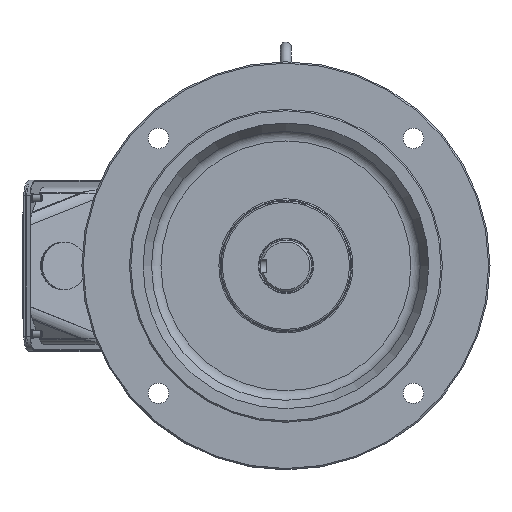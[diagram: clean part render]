
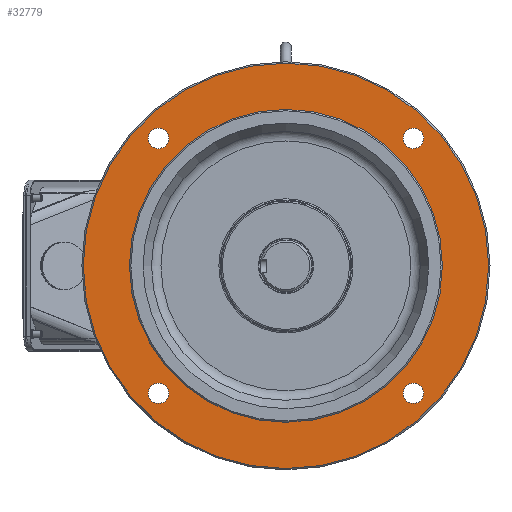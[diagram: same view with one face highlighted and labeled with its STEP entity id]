
A CAD part, front view. The second image highlights one B-rep face of the part: STEP entity #32779.
In plain terms, the highlighted planar face has unit normal (0, -1, 0).
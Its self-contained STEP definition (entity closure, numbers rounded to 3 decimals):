
#1165=CIRCLE('',#34973,7.5);
#1167=CIRCLE('',#34976,7.5);
#1170=CIRCLE('',#34980,115.);
#1177=CIRCLE('',#34990,149.);
#1178=CIRCLE('',#34991,7.5);
#1179=CIRCLE('',#34992,7.5);
#5974=ORIENTED_EDGE('',*,*,#13507,.T.);
#5975=ORIENTED_EDGE('',*,*,#13508,.F.);
#5976=ORIENTED_EDGE('',*,*,#13500,.F.);
#5977=ORIENTED_EDGE('',*,*,#13497,.F.);
#5978=ORIENTED_EDGE('',*,*,#13495,.F.);
#5979=ORIENTED_EDGE('',*,*,#13509,.F.);
#13495=EDGE_CURVE('',#17436,#17436,#1165,.T.);
#13497=EDGE_CURVE('',#17438,#17438,#1167,.T.);
#13500=EDGE_CURVE('',#17441,#17441,#1170,.T.);
#13507=EDGE_CURVE('',#17448,#17448,#1177,.T.);
#13508=EDGE_CURVE('',#17449,#17449,#1178,.T.);
#13509=EDGE_CURVE('',#17450,#17450,#1179,.T.);
#17436=VERTEX_POINT('',#52819);
#17438=VERTEX_POINT('',#52824);
#17441=VERTEX_POINT('',#52831);
#17448=VERTEX_POINT('',#52848);
#17449=VERTEX_POINT('',#52850);
#17450=VERTEX_POINT('',#52852);
#22891=EDGE_LOOP('',(#5974));
#22892=EDGE_LOOP('',(#5975));
#22893=EDGE_LOOP('',(#5976));
#22894=EDGE_LOOP('',(#5977));
#22895=EDGE_LOOP('',(#5978));
#22896=EDGE_LOOP('',(#5979));
#25101=FACE_BOUND('',#22891,.T.);
#25102=FACE_BOUND('',#22892,.T.);
#25103=FACE_BOUND('',#22893,.T.);
#25104=FACE_BOUND('',#22894,.T.);
#25105=FACE_BOUND('',#22895,.T.);
#25106=FACE_BOUND('',#22896,.T.);
#26985=PLANE('',#34989);
#32779=ADVANCED_FACE('',(#25101,#25102,#25103,#25104,#25105,#25106),#26985,
 .T.);
#34973=AXIS2_PLACEMENT_3D('',#52818,#39420,#39421);
#34976=AXIS2_PLACEMENT_3D('',#52823,#39426,#39427);
#34980=AXIS2_PLACEMENT_3D('',#52830,#39434,#39435);
#34989=AXIS2_PLACEMENT_3D('',#52846,#39452,#39453);
#34990=AXIS2_PLACEMENT_3D('',#52847,#39454,#39455);
#34991=AXIS2_PLACEMENT_3D('',#52849,#39456,#39457);
#34992=AXIS2_PLACEMENT_3D('',#52851,#39458,#39459);
#39420=DIRECTION('',(0.,-1.,0.));
#39421=DIRECTION('',(-1.,0.,0.));
#39426=DIRECTION('',(0.,-1.,0.));
#39427=DIRECTION('',(0.,0.,1.));
#39434=DIRECTION('',(0.,-1.,0.));
#39435=DIRECTION('',(1.,0.,0.));
#39452=DIRECTION('',(0.,-1.,0.));
#39453=DIRECTION('',(1.,0.,0.));
#39454=DIRECTION('',(0.,-1.,0.));
#39455=DIRECTION('',(1.,0.,0.));
#39456=DIRECTION('',(0.,-1.,0.));
#39457=DIRECTION('',(0.,0.,-1.));
#39458=DIRECTION('',(0.,-1.,0.));
#39459=DIRECTION('',(1.,0.,0.));
#52818=CARTESIAN_POINT('',(93.692,4.,-93.692));
#52819=CARTESIAN_POINT('',(86.192,4.,-93.692));
#52823=CARTESIAN_POINT('',(-93.692,4.,-93.692));
#52824=CARTESIAN_POINT('',(-93.692,4.,-86.192));
#52830=CARTESIAN_POINT('',(0.,4.,0.));
#52831=CARTESIAN_POINT('',(115.,4.,0.));
#52846=CARTESIAN_POINT('',(0.,4.,115.));
#52847=CARTESIAN_POINT('',(0.,4.,0.));
#52848=CARTESIAN_POINT('',(149.,4.,0.));
#52849=CARTESIAN_POINT('',(93.692,4.,93.692));
#52850=CARTESIAN_POINT('',(93.692,4.,86.192));
#52851=CARTESIAN_POINT('',(-93.692,4.,93.692));
#52852=CARTESIAN_POINT('',(-86.192,4.,93.692));
